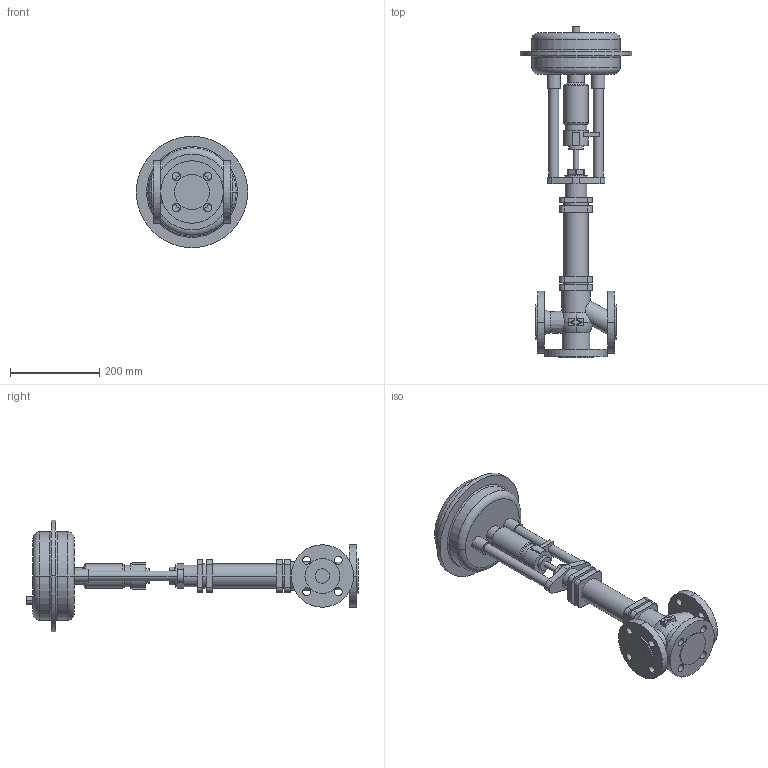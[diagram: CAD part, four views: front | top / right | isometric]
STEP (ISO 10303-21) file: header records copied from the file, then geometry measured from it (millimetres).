
FILE_DESCRIPTION(('OneSpaceDesigner STEP Export'),'2;1');
FILE_NAME('c000000721.stp','2006-09-20T11:14:13',(''),(''),'OneSpace Designer STEP processor for AP214 (Solid Model)','OneSpace Designer 13.20A 18-Aug-2005 (C) CoCreate Software GmbH','');
FILE_SCHEMA(('AUTOMOTIVE_DESIGN { 1 0 10303 214 1 1 1 1 }'));
Length unit declared in the file: millimetre
Products named in the file (2): 1; 2
Bounding box: 250 x 745 x 250 mm (x, y, z)
Volume: 5697655.7 mm3; surface area: 453514.4 mm2
Topology: 2 solids, 2 shells, 243 faces, 599 edges, 393 vertices
Faces by surface type: cylinder 112, plane 100, torus 23, cone 8
Entity records: 6650 total; most frequent: CARTESIAN_POINT 1272, ORIENTED_EDGE 1198, DIRECTION 1002, EDGE_CURVE 599, VERTEX_POINT 393, AXIS2_PLACEMENT_3D 361, EDGE_LOOP 300, VECTOR 280
